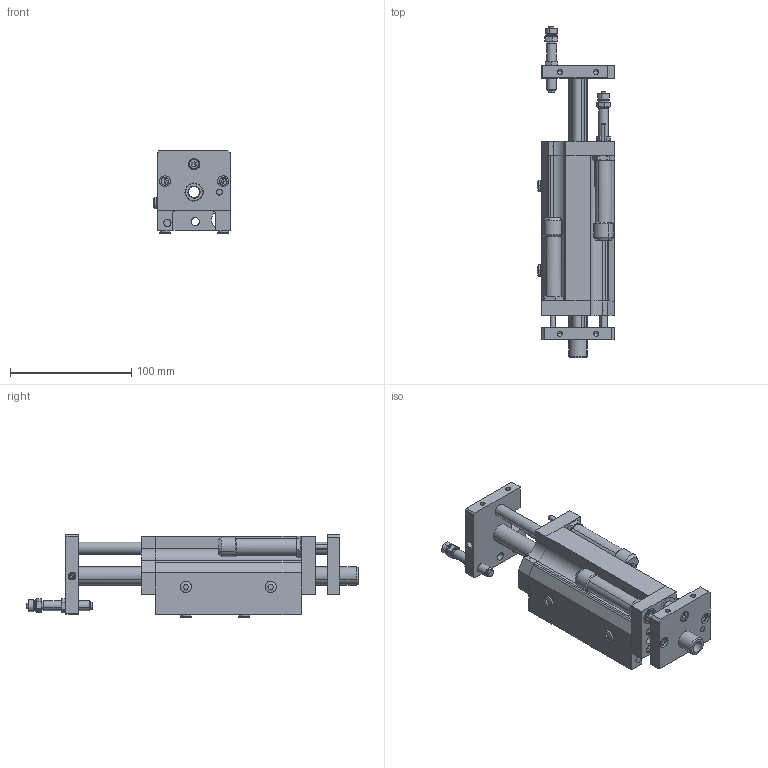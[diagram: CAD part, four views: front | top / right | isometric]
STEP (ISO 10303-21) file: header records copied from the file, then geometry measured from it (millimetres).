
FILE_DESCRIPTION((''),'2;1');
FILE_NAME('V:\CAD\Inventor-Stp\Linearelemente\Kugelbüchsenführungen\VE 25\1000034\1000034.stp','2006-03-14T09:32:41',('is'),(''),'Autodesk Inventor 8','Autodesk Inventor 8','');
FILE_SCHEMA(('AUTOMOTIVE_DESIGN { 1 0 10303 214 1 1 1 1 }'));
Length unit declared in the file: millimetre
Products named in the file (3): 1000034; 1000034-a; 1000034-b
Assembly tree (2 placements, depth 2):
  1000034
    1000034-a
    1000034-b
Bounding box: 63.82 x 274 x 67.9 mm (x, y, z)
Volume: 389857.8 mm3; surface area: 141841 mm2
Topology: 2 solids, 55 shells, 1257 faces, 3027 edges, 1924 vertices
Faces by surface type: plane 356, bspline 349, cylinder 282, cone 224, torus 44, sphere 2
Entity records: 42680 total; most frequent: CARTESIAN_POINT 14040, DIRECTION 6058, ORIENTED_EDGE 5918, EDGE_CURVE 2959, AXIS2_PLACEMENT_3D 2446, VERTEX_POINT 1924, CIRCLE 1533, EDGE_LOOP 1497
